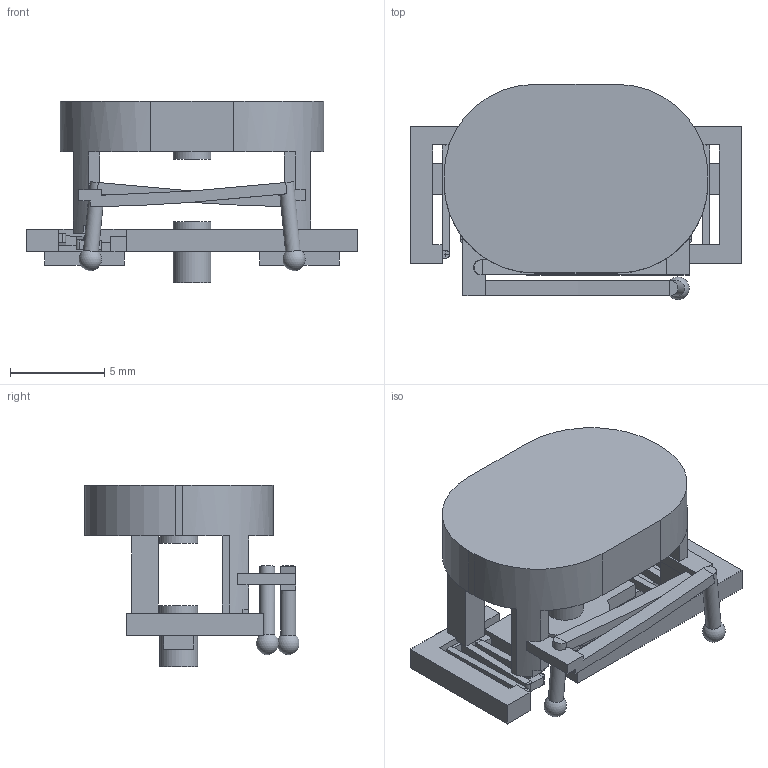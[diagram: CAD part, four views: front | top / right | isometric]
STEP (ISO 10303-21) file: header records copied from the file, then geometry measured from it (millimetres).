
FILE_DESCRIPTION(('FreeCAD Model'),'2;1');
FILE_NAME('Open CASCADE Shape Model','2026-11-13T18:42:32',('FreeCAD'),( 'FreeCAD'),'Open CASCADE STEP processor 7.8','FreeCAD','Unknown');
FILE_SCHEMA(('AUTOMOTIVE_DESIGN { 1 0 10303 214 1 1 1 1 }'));
Length unit declared in the file: millimetre
Products named in the file (1): Open CASCADE STEP translator 7.8 8
Bounding box: 17.6 x 11.4 x 9.65 mm (x, y, z)
Volume: 466.7 mm3; surface area: 885.6 mm2
Topology: 1 solids, 1 shells, 315 faces, 847 edges, 530 vertices
Faces by surface type: plane 272, cylinder 37, bspline 4, sphere 2
Full cylindrical faces by diameter (mm): 0.8 x2, 2 x3
Entity records: 10112 total; most frequent: CARTESIAN_POINT 2207, ORIENTED_EDGE 1690, DIRECTION 1569, EDGE_CURVE 845, LINE 687, VECTOR 687, VERTEX_POINT 530, AXIS2_PLACEMENT_3D 441
